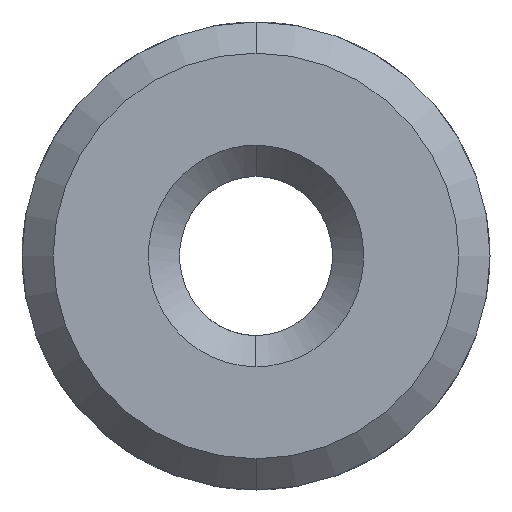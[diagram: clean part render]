
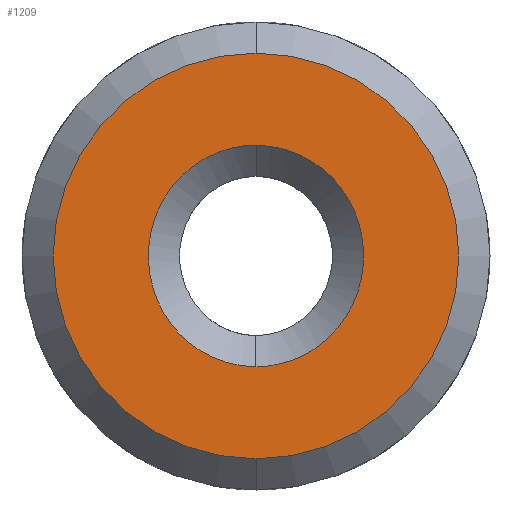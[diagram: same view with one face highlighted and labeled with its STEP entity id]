
A CAD part, front view. The second image highlights one B-rep face of the part: STEP entity #1209.
In plain terms, the highlighted planar face has unit normal (0, -1, 0).
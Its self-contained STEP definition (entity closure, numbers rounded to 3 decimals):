
#70 = EDGE_CURVE ( 'NONE', #1688, #2168, #514, .T. ) ;
#91 = CARTESIAN_POINT ( 'NONE',  ( 0.428, 0., 0.564 ) ) ;
#108 = CARTESIAN_POINT ( 'NONE',  ( 0.35, 0., 0.619 ) ) ;
#111 = CARTESIAN_POINT ( 'NONE',  ( -0.606, 0., -0.352 ) ) ;
#120 = CARTESIAN_POINT ( 'NONE',  ( 0., 0., -0.71 ) ) ;
#122 = EDGE_LOOP ( 'NONE', ( #1497, #1635 ) ) ;
#139 = DIRECTION ( 'NONE',  ( 0., -1., 0. ) ) ;
#154 = AXIS2_PLACEMENT_3D ( 'NONE', #2279, #2995, #1317 ) ;
#348 = CARTESIAN_POINT ( 'NONE',  ( -0.185, 0., -0.69 ) ) ;
#357 = CARTESIAN_POINT ( 'NONE',  ( -0.69, 0., -0.091 ) ) ;
#382 = CARTESIAN_POINT ( 'NONE',  ( -0.429, 0., -0.563 ) ) ;
#479 = CARTESIAN_POINT ( 'NONE',  ( 0., 0., 1.3 ) ) ;
#514 = CIRCLE ( 'NONE', #2582, 1.3 ) ;
#582 = CARTESIAN_POINT ( 'NONE',  ( -0.672, 0., 0.184 ) ) ;
#606 = CARTESIAN_POINT ( 'NONE',  ( -0.35, 0., 0.619 ) ) ;
#777 = EDGE_CURVE ( 'NONE', #2168, #1688, #1059, .T. ) ;
#805 = CARTESIAN_POINT ( 'NONE',  ( 0.672, 0., 0.184 ) ) ;
#812 = DIRECTION ( 'NONE',  ( 0., 0., 1. ) ) ;
#824 = CARTESIAN_POINT ( 'NONE',  ( 0.554, 0., 0.433 ) ) ;
#825 = CARTESIAN_POINT ( 'NONE',  ( -0.429, 0., 0.564 ) ) ;
#856 = CARTESIAN_POINT ( 'NONE',  ( -0.69, 0., 0.091 ) ) ;
#1044 = CARTESIAN_POINT ( 'NONE',  ( 0., 0., 0. ) ) ;
#1059 = CIRCLE ( 'NONE', #154, 1.3 ) ;
#1065 = CARTESIAN_POINT ( 'NONE',  ( 0.09, 0., -0.71 ) ) ;
#1087 = CARTESIAN_POINT ( 'NONE',  ( -0.554, 0., 0.433 ) ) ;
#1094 = CARTESIAN_POINT ( 'NONE',  ( -0.672, 0., -0.185 ) ) ;
#1174 = CARTESIAN_POINT ( 'NONE',  ( 0., 0., 0.71 ) ) ;
#1176 = EDGE_LOOP ( 'NONE', ( #2967, #2175 ) ) ;
#1209 = ADVANCED_FACE ( 'NONE', ( #2878, #3031 ), #2502, .F. ) ;
#1301 = CARTESIAN_POINT ( 'NONE',  ( 0.185, 0., -0.69 ) ) ;
#1317 = DIRECTION ( 'NONE',  ( 0., 0., 1. ) ) ;
#1349 = B_SPLINE_CURVE_WITH_KNOTS ( 'NONE', 3,
 ( #2028, #1798, #348, #2274, #382, #2055, #111, #1094, #357, #856, #582, #2496, #1087, #825, #606, #3017, #2298, #2521 ),
 .UNSPECIFIED., .F., .F.,
 ( 4, 2, 2, 2, 2, 2, 2, 2, 4 ),
 ( 0.5, 0.563, 0.625, 0.688, 0.75, 0.813, 0.875, 0.938, 1. ),
 .UNSPECIFIED. ) ;
#1497 = ORIENTED_EDGE ( 'NONE', *, *, #777, .T. ) ;
#1531 = CARTESIAN_POINT ( 'NONE',  ( 0.35, 0., -0.619 ) ) ;
#1532 = VERTEX_POINT ( 'NONE', #1174 ) ;
#1591 = B_SPLINE_CURVE_WITH_KNOTS ( 'NONE', 3,
 ( #2026, #2741, #1788, #108, #91, #824, #2264, #805, #3001, #2977, #2494, #2469, #2506, #1765, #1531, #1301, #1065, #120 ),
 .UNSPECIFIED., .F., .F.,
 ( 4, 2, 2, 2, 2, 2, 2, 2, 4 ),
 ( 0., 0.063, 0.125, 0.187, 0.25, 0.313, 0.375, 0.438, 0.5 ),
 .UNSPECIFIED. ) ;
#1614 = VERTEX_POINT ( 'NONE', #1961 ) ;
#1635 = ORIENTED_EDGE ( 'NONE', *, *, #70, .T. ) ;
#1688 = VERTEX_POINT ( 'NONE', #2892 ) ;
#1765 = CARTESIAN_POINT ( 'NONE',  ( 0.429, 0., -0.563 ) ) ;
#1788 = CARTESIAN_POINT ( 'NONE',  ( 0.185, 0., 0.69 ) ) ;
#1798 = CARTESIAN_POINT ( 'NONE',  ( -0.091, 0., -0.71 ) ) ;
#1851 = EDGE_CURVE ( 'NONE', #1614, #1532, #1349, .T. ) ;
#1961 = CARTESIAN_POINT ( 'NONE',  ( 0., 0., -0.71 ) ) ;
#2026 = CARTESIAN_POINT ( 'NONE',  ( 0., 0., 0.71 ) ) ;
#2028 = CARTESIAN_POINT ( 'NONE',  ( 0., 0., -0.71 ) ) ;
#2055 = CARTESIAN_POINT ( 'NONE',  ( -0.554, 0., -0.433 ) ) ;
#2168 = VERTEX_POINT ( 'NONE', #479 ) ;
#2175 = ORIENTED_EDGE ( 'NONE', *, *, #1851, .T. ) ;
#2252 = DIRECTION ( 'NONE',  ( 0., 1., 0. ) ) ;
#2264 = CARTESIAN_POINT ( 'NONE',  ( 0.605, 0., 0.353 ) ) ;
#2274 = CARTESIAN_POINT ( 'NONE',  ( -0.35, 0., -0.619 ) ) ;
#2279 = CARTESIAN_POINT ( 'NONE',  ( 0., 0., 0. ) ) ;
#2298 = CARTESIAN_POINT ( 'NONE',  ( -0.093, 0., 0.71 ) ) ;
#2469 = CARTESIAN_POINT ( 'NONE',  ( 0.606, 0., -0.352 ) ) ;
#2494 = CARTESIAN_POINT ( 'NONE',  ( 0.672, 0., -0.184 ) ) ;
#2496 = CARTESIAN_POINT ( 'NONE',  ( -0.605, 0., 0.353 ) ) ;
#2499 = CARTESIAN_POINT ( 'NONE',  ( 0., 0., 0. ) ) ;
#2502 = PLANE ( 'NONE',  #2716 ) ;
#2506 = CARTESIAN_POINT ( 'NONE',  ( 0.554, 0., -0.433 ) ) ;
#2521 = CARTESIAN_POINT ( 'NONE',  ( 0., 0., 0.71 ) ) ;
#2582 = AXIS2_PLACEMENT_3D ( 'NONE', #2499, #139, #2744 ) ;
#2716 = AXIS2_PLACEMENT_3D ( 'NONE', #1044, #2252, #812 ) ;
#2741 = CARTESIAN_POINT ( 'NONE',  ( 0.09, 0., 0.71 ) ) ;
#2744 = DIRECTION ( 'NONE',  ( 0., 0., 1. ) ) ;
#2878 = FACE_OUTER_BOUND ( 'NONE', #122, .T. ) ;
#2892 = CARTESIAN_POINT ( 'NONE',  ( 0., 0., -1.3 ) ) ;
#2967 = ORIENTED_EDGE ( 'NONE', *, *, #3059, .T. ) ;
#2977 = CARTESIAN_POINT ( 'NONE',  ( 0.69, 0., -0.091 ) ) ;
#2995 = DIRECTION ( 'NONE',  ( 0., -1., 0. ) ) ;
#3001 = CARTESIAN_POINT ( 'NONE',  ( 0.69, 0., 0.09 ) ) ;
#3017 = CARTESIAN_POINT ( 'NONE',  ( -0.184, 0., 0.691 ) ) ;
#3031 = FACE_BOUND ( 'NONE', #1176, .T. ) ;
#3059 = EDGE_CURVE ( 'NONE', #1532, #1614, #1591, .T. ) ;
